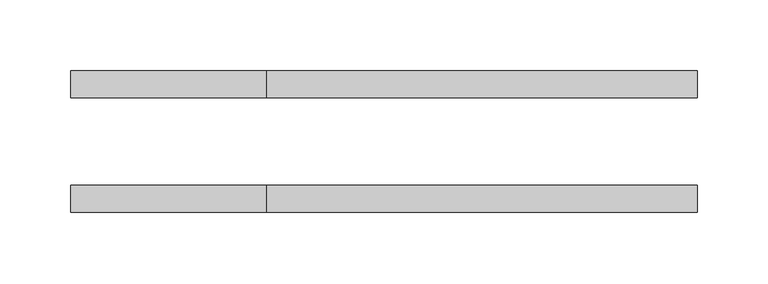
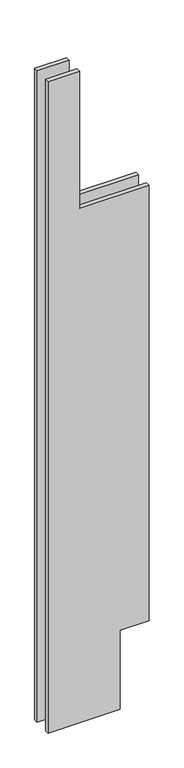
"""IFC4 building model written with IfcOpenShell, lengths in millimetres: plate geometry, Panel-Filler-Teknion-Altos : FZFF."""

from ifc_helpers import new_model, si_unit, frame, origin, place, context, project, spatial, polyline, outline, extrude, source, transform, mapped, element, save


def plate_b7afd48b(model_context):
    return source(origin(), model_context, "Body", "SweptSolid", [
        extrude(outline(polyline([(3032.125, -221.6050781), (15.875, -221.6050781), (15.875, 94.6050781), (381.0, 94.6050781), (381.0, 221.6050781), (2397.125, 221.6050781), (2397.125, -83.1949219), (3032.125, -83.1949219), (3032.125, -221.6050781)])), frame((0.0, -50.0073955, 0.0), z_axis=(0.0, 1.0, 0.0), x_axis=(0.0, 0.0, 1.0)), (0.0, 0.0, 1.0), 19.05),
        extrude(outline(polyline([(3032.125, -221.6050781), (15.875, -221.6050781), (15.875, 94.6050781), (381.0, 94.6050781), (381.0, 221.6050781), (2397.125, 221.6050781), (2397.125, -83.1949219), (3032.125, -83.1949219), (3032.125, -221.6050781)])), frame((0.0, 30.9551045, 0.0), z_axis=(0.0, 1.0, 0.0), x_axis=(0.0, 0.0, 1.0)), (0.0, 0.0, 1.0), 19.05),
    ])


if __name__ == "__main__":
    model = new_model("IFC4")
    model_context = context("Model", 3, world=origin())
    ifc_project = project(units=[si_unit("LENGTHUNIT", "METRE", prefix="MILLI")], contexts=[model_context])
    site = spatial("IfcSite", under=ifc_project)
    building = spatial("IfcBuilding", under=site)
    placement = place(None, origin())
    plate_shape = plate_b7afd48b(model_context)
    element("IfcPlate", 1, ObjectType="Panel-Filler-Teknion-Altos : FZFF", at=placement, inside=building, context=model_context, shape_type="MappedRepresentation", body=[
        mapped(plate_shape, transform((0.0, 0.0, 0.0), x_axis=(1.0, 0.0, 0.0), y_axis=(0.0, 1.0, 0.0), z_axis=(0.0, 0.0, 1.0))),
    ])
    save(model, "model.ifc")
